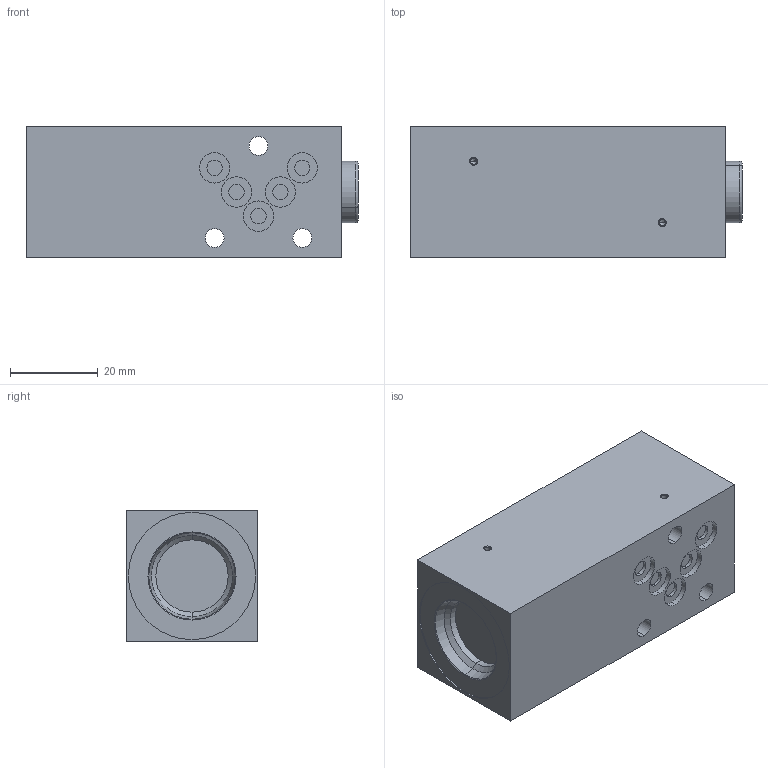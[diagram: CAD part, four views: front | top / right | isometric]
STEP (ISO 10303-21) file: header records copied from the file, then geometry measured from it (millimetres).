
FILE_DESCRIPTION (( 'STEP AP214' ), '1' );
FILE_NAME ('MVPFA03-P_A.STEP', '2017-04-13T12:33:49', ( '' ), ( '' ), 'SwSTEP 2.0', 'SolidWorks 2016', '' );
FILE_SCHEMA (( 'AUTOMOTIVE_DESIGN' ));
Length unit declared in the file: millimetre
Products named in the file (1): MVPFA03-P_A
Bounding box: 75.7 x 30 x 30 mm (x, y, z)
Volume: 61979.3 mm3; surface area: 14042.9 mm2
Topology: 5 solids, 8 shells, 252 faces, 569 edges, 361 vertices
Faces by surface type: cylinder 90, plane 90, cone 39, bspline 15, sphere 14, torus 4
Entity records: 10922 total; most frequent: CARTESIAN_POINT 2344, DIRECTION 1248, ORIENTED_EDGE 1118, EDGE_CURVE 559, AXIS2_PLACEMENT_3D 484, VERTEX_POINT 361, EDGE_LOOP 300, LINE 280
